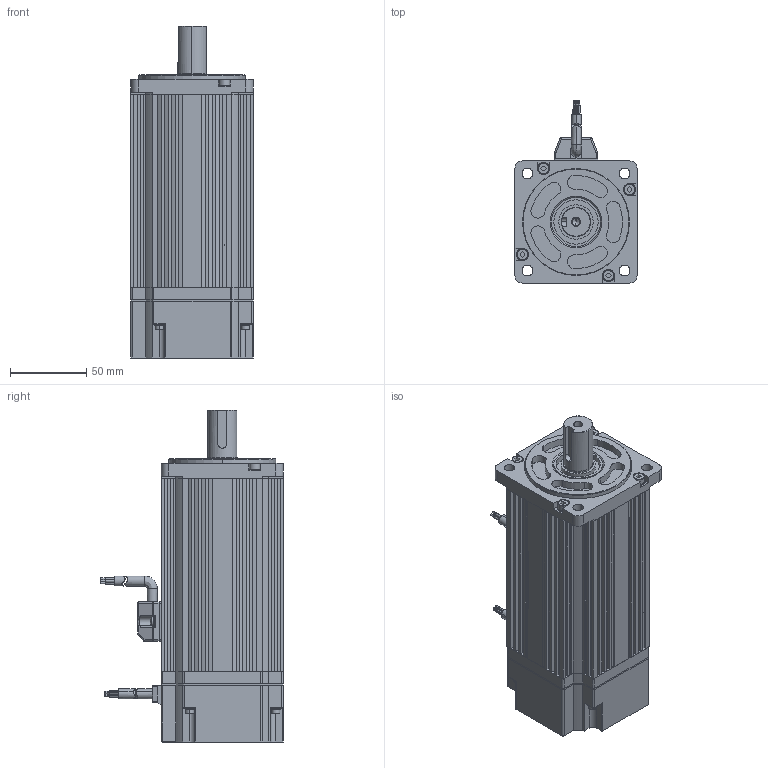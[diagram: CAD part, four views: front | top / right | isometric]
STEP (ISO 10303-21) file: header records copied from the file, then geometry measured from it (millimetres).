
FILE_DESCRIPTION (( 'STEP AP203' ), '1' );
FILE_NAME ('VM5-L08A-R7520-D2L.STEP', '2019-03-15T11:09:02', ( 'ZSM' ), ( '' ), 'SwSTEP 2.0', 'SolidWorks 2014', '' );
FILE_SCHEMA (( 'CONFIG_CONTROL_DESIGN' ));
Length unit declared in the file: millimetre
Products named in the file (22): 172167-1; D08B1004C_D08B1004C4; VM5-L08A-R7520-D2L; GB T 848-2002 ±4; D08B102E; GB／T70．1-2000内六角圆柱头螺钉M4×12; D08B102F; GB／T 70．1-2000[内六角圆柱头螺钉M3×18]; D06B106B; D06B106A; D06B110B; D08B101B; D06B110A; GB T848-2002 ±3; D08B1003C_D08B1003C4; D08B106D; GB／T 818-2000[十字槽盘头螺钉M3×6]; D08B102D; 蚐猾V5-60#; 萇埭盄; D08B103D; 15pin萇擢
Assembly tree (39 placements, depth 3):
  VM5-L08A-R7520-D2L
    D08B1003C_D08B1003C4
      D08B101B
    D08B1004C_D08B1004C4
      D08B102D
      D08B103D
    D08B102E
    D08B102F
    D06B106B
    D06B110B
    GB T848-2002 ±3  x9
    GB／T 818-2000[十字槽盘头螺钉M3×6]  x2
    172167-1
      萇埭盄
    GB T 848-2002 ±4  x4
    GB／T70．1-2000内六角圆柱头螺钉M4×12  x4
    GB／T 70．1-2000[内六角圆柱头螺钉M3×18]  x4
    D06B106A
    D06B110A
    D08B106D
    蚐猾V5-60#
    15pin萇擢
Bounding box: 80 x 119.78 x 217.5 mm (x, y, z)
Volume: 291136.3 mm3; surface area: 210332.3 mm2
Topology: 38 solids, 41 shells, 1401 faces, 3501 edges, 2241 vertices
Faces by surface type: cylinder 608, plane 606, bspline 110, cone 77
Entity records: 42297 total; most frequent: CARTESIAN_POINT 10166, DIRECTION 6175, ORIENTED_EDGE 6094, EDGE_CURVE 3047, AXIS2_PLACEMENT_3D 2218, VERTEX_POINT 1968, LINE 1739, VECTOR 1739
